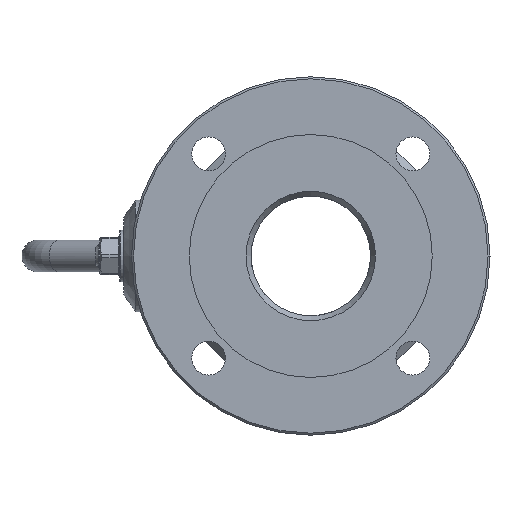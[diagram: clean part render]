
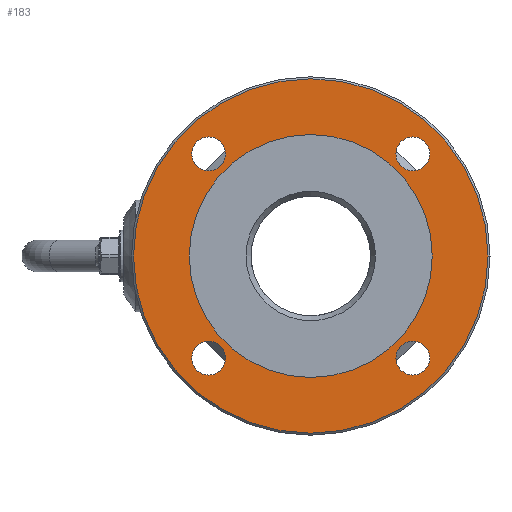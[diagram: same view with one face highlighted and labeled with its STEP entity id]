
A CAD part, left-side view. The second image highlights one B-rep face of the part: STEP entity #183.
In plain terms, the highlighted planar face has unit normal (-1, 0, 0).
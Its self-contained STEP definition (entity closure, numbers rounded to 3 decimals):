
#183=ADVANCED_FACE('',(#1378,#1380,#1382,#1384,#1386,#1388),#1390,.T.);
#1378=FACE_BOUND('',#1379,.T.);
#1379=EDGE_LOOP('',(#2442));
#1380=FACE_BOUND('',#1381,.T.);
#1381=EDGE_LOOP('',(#2443));
#1382=FACE_BOUND('',#1383,.T.);
#1383=EDGE_LOOP('',(#2444));
#1384=FACE_BOUND('',#1385,.T.);
#1385=EDGE_LOOP('',(#2445));
#1386=FACE_BOUND('',#1387,.T.);
#1387=EDGE_LOOP('',(#2446));
#1388=FACE_OUTER_BOUND('',#1389,.T.);
#1389=EDGE_LOOP('',(#2447));
#1390=PLANE('',#1391);
#1391=AXIS2_PLACEMENT_3D('',#1392,#1393,#1394);
#1392=CARTESIAN_POINT('',(-85.,0.,0.));
#1393=DIRECTION('',(-1.,0.,0.));
#1394=DIRECTION('',(0.,0.,-1.));
#2442=ORIENTED_EDGE('',*,*,#3507,.T.);
#2443=ORIENTED_EDGE('',*,*,#3508,.T.);
#2444=ORIENTED_EDGE('',*,*,#3509,.T.);
#2445=ORIENTED_EDGE('',*,*,#3510,.T.);
#2446=ORIENTED_EDGE('',*,*,#3471,.T.);
#2447=ORIENTED_EDGE('',*,*,#3511,.T.);
#3471=EDGE_CURVE('',#3916,#3916,#3917,.T.);
#3507=EDGE_CURVE('',#3973,#3973,#3974,.T.);
#3508=EDGE_CURVE('',#3975,#3975,#3976,.T.);
#3509=EDGE_CURVE('',#3977,#3977,#3978,.T.);
#3510=EDGE_CURVE('',#3979,#3979,#3980,.T.);
#3511=EDGE_CURVE('',#3981,#3981,#3982,.T.);
#3916=VERTEX_POINT('',#5893);
#3917=CIRCLE('',#5894,61.);
#3973=VERTEX_POINT('',#6279);
#3974=CIRCLE('',#6280,8.5);
#3975=VERTEX_POINT('',#6284);
#3976=CIRCLE('',#6285,8.5);
#3977=VERTEX_POINT('',#6289);
#3978=CIRCLE('',#6290,8.5);
#3979=VERTEX_POINT('',#6294);
#3980=CIRCLE('',#6295,8.5);
#3981=VERTEX_POINT('',#6299);
#3982=CIRCLE('',#6300,89.);
#5893=CARTESIAN_POINT('',(-85.,61.,0.));
#5894=AXIS2_PLACEMENT_3D('',#5895,#5896,#5897);
#5895=CARTESIAN_POINT('',(-85.,0.,0.));
#5896=DIRECTION('',(1.,0.,0.));
#5897=DIRECTION('',(0.,1.,0.));
#6279=CARTESIAN_POINT('',(-85.,59.765,51.265));
#6280=AXIS2_PLACEMENT_3D('',#6281,#6282,#6283);
#6281=CARTESIAN_POINT('',(-85.,51.265,51.265));
#6282=DIRECTION('',(1.,0.,0.));
#6283=DIRECTION('',(0.,1.,0.));
#6284=CARTESIAN_POINT('',(-85.,-51.265,59.765));
#6285=AXIS2_PLACEMENT_3D('',#6286,#6287,#6288);
#6286=CARTESIAN_POINT('',(-85.,-51.265,51.265));
#6287=DIRECTION('',(1.,0.,0.));
#6288=DIRECTION('',(0.,0.,1.));
#6289=CARTESIAN_POINT('',(-85.,-59.765,-51.265));
#6290=AXIS2_PLACEMENT_3D('',#6291,#6292,#6293);
#6291=CARTESIAN_POINT('',(-85.,-51.265,-51.265));
#6292=DIRECTION('',(1.,0.,0.));
#6293=DIRECTION('',(0.,-1.,0.));
#6294=CARTESIAN_POINT('',(-85.,51.265,-59.765));
#6295=AXIS2_PLACEMENT_3D('',#6296,#6297,#6298);
#6296=CARTESIAN_POINT('',(-85.,51.265,-51.265));
#6297=DIRECTION('',(1.,0.,0.));
#6298=DIRECTION('',(0.,0.,-1.));
#6299=CARTESIAN_POINT('',(-85.,0.,-89.));
#6300=AXIS2_PLACEMENT_3D('',#6301,#6302,#6303);
#6301=CARTESIAN_POINT('',(-85.,0.,0.));
#6302=DIRECTION('',(-1.,0.,0.));
#6303=DIRECTION('',(0.,0.,-1.));
